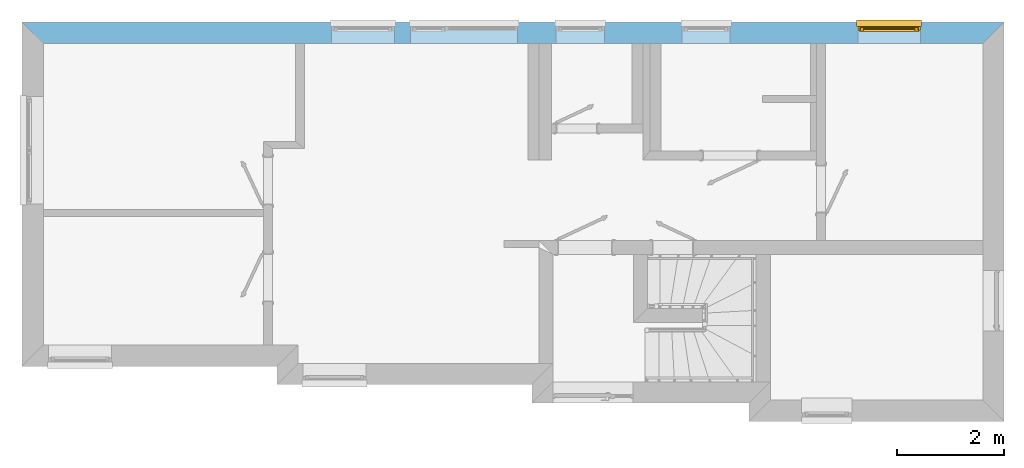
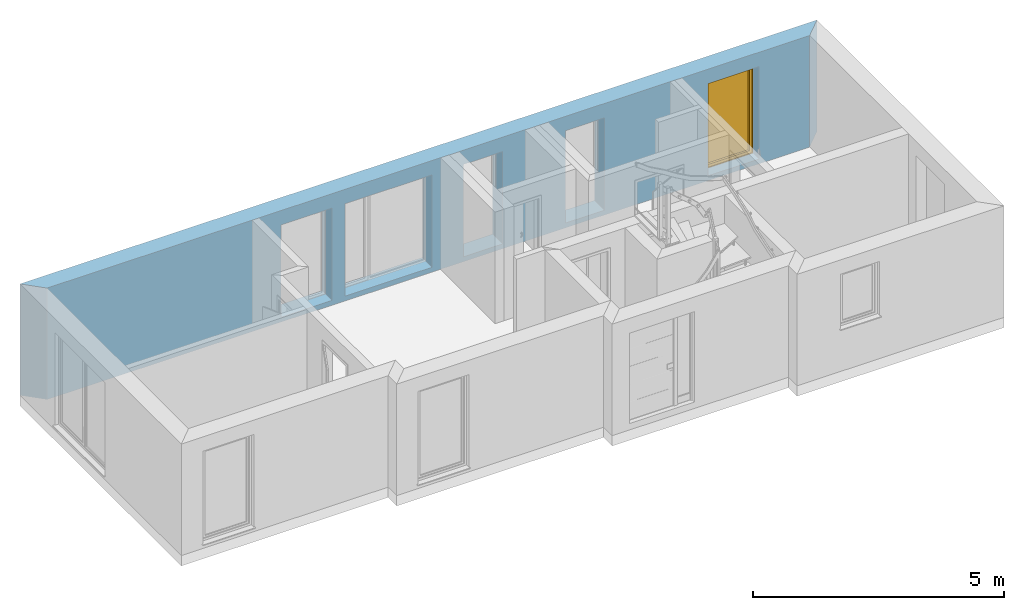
# One storey, part 10 of 13: 1 window, 5 openings, plus 1 element that does not belong to this part.
"""IFC2X3 building model written with IfcOpenShell, lengths in millimetres."""

from ifc_helpers import new_model, si_unit, frame, origin_with_axes, place, context, project, spatial, faceted_brep, material, layer, layer_set, layer_usage, type_object, element, fill, save


model = new_model("IFC2X3")

# Units and contexts
model_context = context("Model", 3, world=origin_with_axes())
ifc_project = project(units=[si_unit("LENGTHUNIT", "METRE", prefix="MILLI")], contexts=[model_context])

# Site, building, storey
site_placement = place(None, origin_with_axes())
site = spatial("IfcSite", under=ifc_project, at=site_placement, Name="Site", CompositionType="ELEMENT")
building_placement = place(site_placement, origin_with_axes())
building = spatial("IfcBuilding", under=site, at=building_placement, Name="?", CompositionType="ELEMENT")
storey_placement = place(building_placement, origin_with_axes())
storey = spatial("IfcBuildingStorey", under=building, at=storey_placement, Name="Erdgeschoß", CompositionType="ELEMENT", Elevation=0.0)

# Wall, openings, window
ifc_material = material(Name="Material_AW")
ifc_layer = layer(ifc_material, 395.0, ventilated=False)
ifc_layer_set = layer_set([ifc_layer], Name="MaterialLayerSet_AW")
ifc_layer_usage = layer_usage(ifc_layer_set, "AXIS2", "NEGATIVE", 197.5)
wall_placement = place(storey_placement, frame((197.5, -197.5, 0.0), z_axis=(0.0, 0.0, 1.0), x_axis=(1.0, 0.0, 0.0)))
wall = element("IfcWall", 1, at=wall_placement, inside=storey, material=ifc_layer_usage, Name="AW-01", context=model_context, shape_type="Brep", body=[
    faceted_brep([(17707.5008600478, -197.5, 0.0), (17707.5008600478, -197.5, 2707.0), (197.5, -197.5, 2707.0), (197.5, -197.5, 0.0), (18102.5001275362, 197.499999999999, 0.0), (18102.5001275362, 197.499999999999, 150.0), (18102.5001275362, 197.499999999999, 2707.0), (17707.5008600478, -197.500000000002, 2707.0), (17707.5008600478, -197.500000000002, 0.0), (-197.500233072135, 197.5, 0.0), (-197.500233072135, 197.5, 150.0), (5569.5, 197.5, 150.0), (5569.5, 197.5, 116.0), (6739.5, 197.5, 116.0), (6739.5, 197.5, 150.0), (7039.5, 197.5, 150.0), (7039.5, 197.5, 116.0), (9039.5, 197.5, 116.0), (9039.5, 197.5, 150.0), (9755.5, 197.5, 150.0), (9755.5, 197.5, 116.0), (10655.5, 197.5, 116.0), (10655.5, 197.5, 150.0), (12099.5, 197.5, 150.0), (12099.5, 197.5, 116.0), (12999.5, 197.5, 116.0), (12999.5, 197.5, 150.0), (15377.5, 197.5, 150.0), (15377.5, 197.5, 116.0), (16547.5, 197.5, 116.0), (16547.5, 197.5, 150.0), (18102.5001275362, 197.5, 150.0), (18102.5001275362, 197.5, 0.0), (-197.500233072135, 197.5, 150.0), (-197.500233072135, 197.5, 2707.0), (18102.5001275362, 197.5, 2707.0), (18102.5001275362, 197.5, 150.0), (16547.5, 197.5, 150.0), (16547.5, 197.5, 116.0), (15377.5, 197.5, 116.0), (15377.5, 197.5, 150.0), (12999.5, 197.5, 150.0), (12999.5, 197.5, 116.0), (12099.5, 197.5, 116.0), (12099.5, 197.5, 150.0), (10655.5, 197.5, 150.0), (10655.5, 197.5, 116.0), (9755.5, 197.5, 116.0), (9755.5, 197.5, 150.0), (9039.5, 197.5, 150.0), (9039.5, 197.5, 116.0), (7039.5, 197.5, 116.0), (7039.5, 197.5, 150.0), (6739.5, 197.5, 150.0), (6739.5, 197.5, 116.0), (5569.5, 197.5, 116.0), (5569.5, 197.5, 150.0), (197.5, -197.5, 0.0), (197.5, -197.5, 2707.0), (-197.500233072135, 197.5, 2707.0), (-197.500233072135, 197.5, 150.0), (-197.500233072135, 197.5, 0.0), (197.5, -197.5, 0.0), (-197.500233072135, 197.5, 0.0), (18102.5001275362, 197.5, 0.0), (17707.5008600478, -197.5, 0.0), (-197.500233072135, 197.5, 2707.0), (197.5, -197.5, 2707.0), (17707.5008600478, -197.5, 2707.0), (18102.5001275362, 197.5, 2707.0)], [[[0, 1, 2, 3]], [[4, 5, 6, 7, 8]], [[9, 10, 11, 12, 13, 14, 15, 16, 17, 18, 19, 20, 21, 22, 23, 24, 25, 26, 27, 28, 29, 30, 31, 32]], [[33, 34, 35, 36, 37, 38, 39, 40, 41, 42, 43, 44, 45, 46, 47, 48, 49, 50, 51, 52, 53, 54, 55, 56]], [[57, 58, 59, 60, 61]], [[62, 63, 64, 65]], [[66, 67, 68, 69]]]),
])
opening_1_placement = place(wall_placement, frame((5569.5, 0.0, 116.0), z_axis=(0.0, 0.0, 1.0), x_axis=(1.0, 0.0, 0.0)))
element("IfcOpeningElement", 2, at=opening_1_placement, cuts=wall, Name="AW-01|FE01", context=model_context, shape_type="Brep", body=[
    faceted_brep([(0.0, 207.5, 0.0), (0.0, 207.5, 2244.0), (1170.0, 207.5, 2244.0), (1170.0, 207.5, 0.0), (0.0, -207.5, 0.0), (0.0, -207.5, 2244.0), (0.0, 207.5, 2244.0), (0.0, 207.5, 0.0), (1170.0, -207.5, 0.0), (0.0, -207.5, 0.0), (0.0, 207.5, 0.0), (1170.0, 207.5, 0.0), (1170.0, -207.5, 2244.0), (1170.0, -207.5, 0.0), (1170.0, 207.5, 0.0), (1170.0, 207.5, 2244.0), (0.0, -207.5, 2244.0), (1170.0, -207.5, 2244.0), (1170.0, 207.5, 2244.0), (0.0, 207.5, 2244.0), (0.0, -207.5, 0.0), (1170.0, -207.5, 0.0), (1170.0, -207.5, 2244.0), (0.0, -207.5, 2244.0)], [[[0, 1, 2, 3]], [[4, 5, 6, 7]], [[8, 9, 10, 11]], [[12, 13, 14, 15]], [[16, 17, 18, 19]], [[20, 21, 22, 23]]]),
])
opening_2_placement = place(wall_placement, frame((7039.5, 0.0, 116.0), z_axis=(0.0, 0.0, 1.0), x_axis=(1.0, 0.0, 0.0)))
element("IfcOpeningElement", 3, at=opening_2_placement, cuts=wall, Name="AW-01|FE02", context=model_context, shape_type="Brep", body=[
    faceted_brep([(0.0, 207.5, 0.0), (0.0, 207.5, 2244.0), (2000.0, 207.5, 2244.0), (2000.0, 207.5, 0.0), (0.0, -207.5, 0.0), (0.0, -207.5, 2244.0), (0.0, 207.5, 2244.0), (0.0, 207.5, 0.0), (2000.0, -207.5, 0.0), (0.0, -207.5, 0.0), (0.0, 207.5, 0.0), (2000.0, 207.5, 0.0), (2000.0, -207.5, 2244.0), (2000.0, -207.5, 0.0), (2000.0, 207.5, 0.0), (2000.0, 207.5, 2244.0), (0.0, -207.5, 2244.0), (2000.0, -207.5, 2244.0), (2000.0, 207.5, 2244.0), (0.0, 207.5, 2244.0), (0.0, -207.5, 0.0), (2000.0, -207.5, 0.0), (2000.0, -207.5, 2244.0), (0.0, -207.5, 2244.0)], [[[0, 1, 2, 3]], [[4, 5, 6, 7]], [[8, 9, 10, 11]], [[12, 13, 14, 15]], [[16, 17, 18, 19]], [[20, 21, 22, 23]]]),
])
opening_3_placement = place(wall_placement, frame((9755.5, 0.0, 116.0), z_axis=(0.0, 0.0, 1.0), x_axis=(1.0, 0.0, 0.0)))
element("IfcOpeningElement", 4, at=opening_3_placement, cuts=wall, Name="AW-01|FE03", context=model_context, shape_type="Brep", body=[
    faceted_brep([(0.0, 207.5, 0.0), (0.0, 207.5, 2244.0), (900.0, 207.5, 2244.0), (900.0, 207.5, 0.0), (0.0, -207.5, 0.0), (0.0, -207.5, 2244.0), (0.0, 207.5, 2244.0), (0.0, 207.5, 0.0), (900.0, -207.5, 0.0), (0.0, -207.5, 0.0), (0.0, 207.5, 0.0), (900.0, 207.5, 0.0), (900.0, -207.5, 2244.0), (900.0, -207.5, 0.0), (900.0, 207.5, 0.0), (900.0, 207.5, 2244.0), (0.0, -207.5, 2244.0), (900.0, -207.5, 2244.0), (900.0, 207.5, 2244.0), (0.0, 207.5, 2244.0), (0.0, -207.5, 0.0), (900.0, -207.5, 0.0), (900.0, -207.5, 2244.0), (0.0, -207.5, 2244.0)], [[[0, 1, 2, 3]], [[4, 5, 6, 7]], [[8, 9, 10, 11]], [[12, 13, 14, 15]], [[16, 17, 18, 19]], [[20, 21, 22, 23]]]),
])
opening_4_placement = place(wall_placement, frame((12099.5, 0.0, 116.0), z_axis=(0.0, 0.0, 1.0), x_axis=(1.0, 0.0, 0.0)))
element("IfcOpeningElement", 5, at=opening_4_placement, cuts=wall, Name="AW-01|FE04", context=model_context, shape_type="Brep", body=[
    faceted_brep([(0.0, 207.5, 0.0), (0.0, 207.5, 2244.0), (900.0, 207.5, 2244.0), (900.0, 207.5, 0.0), (0.0, -207.5, 0.0), (0.0, -207.5, 2244.0), (0.0, 207.5, 2244.0), (0.0, 207.5, 0.0), (900.0, -207.5, 0.0), (0.0, -207.5, 0.0), (0.0, 207.5, 0.0), (900.0, 207.5, 0.0), (900.0, -207.5, 2244.0), (900.0, -207.5, 0.0), (900.0, 207.5, 0.0), (900.0, 207.5, 2244.0), (0.0, -207.5, 2244.0), (900.0, -207.5, 2244.0), (900.0, 207.5, 2244.0), (0.0, 207.5, 2244.0), (0.0, -207.5, 0.0), (900.0, -207.5, 0.0), (900.0, -207.5, 2244.0), (0.0, -207.5, 2244.0)], [[[0, 1, 2, 3]], [[4, 5, 6, 7]], [[8, 9, 10, 11]], [[12, 13, 14, 15]], [[16, 17, 18, 19]], [[20, 21, 22, 23]]]),
])
opening_5_placement = place(wall_placement, frame((15377.5, 0.0, 116.0), z_axis=(0.0, 0.0, 1.0), x_axis=(1.0, 0.0, 0.0)))
opening_5 = element("IfcOpeningElement", 6, at=opening_5_placement, cuts=wall, Name="AW-01|FE05", context=model_context, shape_type="Brep", body=[
    faceted_brep([(0.0, 207.5, 0.0), (0.0, 207.5, 2244.0), (1170.0, 207.5, 2244.0), (1170.0, 207.5, 0.0), (0.0, -207.5, 0.0), (0.0, -207.5, 2244.0), (0.0, 207.5, 2244.0), (0.0, 207.5, 0.0), (1170.0, -207.5, 0.0), (0.0, -207.5, 0.0), (0.0, 207.5, 0.0), (1170.0, 207.5, 0.0), (1170.0, -207.5, 2244.0), (1170.0, -207.5, 0.0), (1170.0, 207.5, 0.0), (1170.0, 207.5, 2244.0), (0.0, -207.5, 2244.0), (1170.0, -207.5, 2244.0), (1170.0, 207.5, 2244.0), (0.0, 207.5, 2244.0), (0.0, -207.5, 0.0), (1170.0, -207.5, 0.0), (1170.0, -207.5, 2244.0), (0.0, -207.5, 2244.0)], [[[0, 1, 2, 3]], [[4, 5, 6, 7]], [[8, 9, 10, 11]], [[12, 13, 14, 15]], [[16, 17, 18, 19]], [[20, 21, 22, 23]]]),
])
window_style = type_object("IfcWindowStyle", Name="FE05", ConstructionType="NOTDEFINED", OperationType="SINGLE_PANEL", ParameterTakesPrecedence=True, Sizeable=False)
window_placement = place(opening_5_placement, frame((1170.0, 77.5, 0.0), z_axis=(0.0, 0.0, 1.0), x_axis=(-1.0, 0.0, 0.0)))
window = element("IfcWindow", 7, at=window_placement, inside=storey, type_object=window_style, Name="FE05", OverallHeight=2244.0, OverallWidth=1170.0, context=model_context, shape_type="Brep", body=[
    faceted_brep([(0.0, -36.0, 0.0), (1170.0, -36.0, 0.0), (1155.0, -36.0, 15.0), (15.0, -36.0, 15.0), (15.0, 36.0, 15.0), (1155.0, 36.0, 15.0), (1170.0, 36.0, 0.0), (0.0, 36.0, 0.0), (0.0, 36.0, 0.0), (1170.0, 36.0, 0.0), (1170.0, -36.0, 0.0), (0.0, -36.0, 0.0), (1170.0, -36.0, 0.0), (1170.0, -36.0, 2244.0), (1155.0, -36.0, 2229.0), (1155.0, -36.0, 15.0), (1155.0, 36.0, 15.0011596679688), (1155.0, 36.0, 2229.00122070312), (1170.0, 36.0, 2244.00122070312), (1170.0, 36.0, 0.00115966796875), (1170.0, 36.0, 0.0), (1170.0, 36.0, 2244.0), (1170.0, -36.0, 2244.0), (1170.0, -36.0, 0.0), (1170.0, -36.0, 2244.0), (0.0, -36.0, 2244.0), (15.0, -36.0, 2229.0), (1155.0, -36.0, 2229.0), (1155.0, 36.0, 2229.0), (15.0, 36.0, 2229.0), (0.0, 36.0, 2244.0), (1170.0, 36.0, 2244.0), (1170.0, 36.0, 2244.0), (0.0, 36.0, 2244.0), (0.0, -36.0, 2244.0), (1170.0, -36.0, 2244.0), (0.0, -36.0, 2244.0), (0.0, -36.0, 0.0), (15.0, -36.0, 15.0), (15.0, -36.0, 2229.0), (15.0, 36.0, 2229.00024414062), (15.0, 36.0, 15.000244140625), (0.0, 36.0, 0.000244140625), (0.0, 36.0, 2244.00024414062), (0.0, 36.0, 2244.0), (0.0, 36.0, 0.0), (0.0, -36.0, 0.0), (0.0, -36.0, 2244.0), (1155.0, 36.0, 15.0), (15.0, 36.0, 15.0), (43.0, 36.0, 43.0), (1127.0, 36.0, 43.0), (1127.0, 36.0, 43.0), (43.0, 36.0, 43.0), (43.0, -21.0, 43.0), (1127.0, -21.0, 43.0), (1127.0, -21.0, 43.0), (43.0, -21.0, 43.0), (60.0, -21.0, 60.0), (1110.0, -21.0, 60.0), (1110.0009765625, -21.0, 60.0), (60.0, -21.0, 60.0), (60.0, -25.0, 60.0), (1110.0009765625, -25.0, 60.0), (1110.0009765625, -25.0, 60.0), (60.0, -25.0, 60.0), (53.0, -36.0014646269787, 52.9991454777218), (1117.0009765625, -36.0014646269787, 52.9991454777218), (1117.0009765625, -36.0, 53.0), (53.0, -36.0, 53.0), (15.0, -36.0, 15.0), (1155.0009765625, -36.0, 15.0), (1155.0, 36.0, 2229.0), (1155.0, 36.0, 15.0), (1127.0, 36.0, 43.0), (1127.0, 36.0, 2201.0), (1127.0, 36.0, 2201.00024414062), (1127.0, 36.0, 43.000244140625), (1127.0, -21.0, 43.000244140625), (1127.0, -21.0, 2201.00024414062), (1127.0, -21.0, 2201.00024414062), (1127.0, -21.0, 43.000244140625), (1110.0, -21.0, 60.000244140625), (1110.0, -21.0, 2184.00024414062), (1110.0, -21.0, 2184.00073242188), (1110.0, -21.0, 60.000732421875), (1110.0, -25.0, 60.000732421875), (1110.0, -25.0, 2184.00073242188), (1110.0, -25.0, 2184.00073242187), (1110.0, -25.0, 60.0007324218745), (1117.0009767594, -36.0014647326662, 53.0007324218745), (1117.0009767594, -36.0014647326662, 2191.00073242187), (1117.0, -36.0, 2191.0), (1117.0, -36.0, 53.0), (1155.0, -36.0, 15.0), (1155.0, -36.0, 2229.0), (15.0, 36.0, 2229.0), (1155.0, 36.0, 2229.0), (1127.0, 36.0, 2201.0), (43.0, 36.0, 2201.0), (43.001953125, 36.0, 2201.0), (1127.001953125, 36.0, 2201.0), (1127.001953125, -21.0, 2201.0), (43.001953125, -21.0, 2201.0), (43.001953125, -21.0, 2201.0), (1127.001953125, -21.0, 2201.0), (1110.001953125, -21.0, 2184.0), (60.001953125, -21.0, 2184.0), (60.0, -21.0, 2184.0), (1110.0, -21.0, 2184.0), (1110.0, -25.0, 2184.0), (60.0, -25.0, 2184.0), (60.0, -25.0, 2184.0), (1110.0, -25.0, 2184.0), (1117.0, -36.0014647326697, 2191.00097675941), (53.0, -36.0014647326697, 2191.00097675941), (53.0, -36.0, 2191.0), (1117.0, -36.0, 2191.0), (1155.0, -36.0, 2229.0), (15.0, -36.0, 2229.0), (15.0, 36.0, 15.0), (15.0, 36.0, 2229.0), (43.0, 36.0, 2201.0), (43.0, 36.0, 43.0), (43.0, 36.0, 42.9997711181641), (43.0, 36.0, 2200.99975585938), (43.0, -21.0, 2200.99975585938), (43.0, -21.0, 42.9997711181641), (43.0, -21.0, 42.9997711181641), (43.0, -21.0, 2200.99975585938), (60.0, -21.0, 2183.99975585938), (60.0, -21.0, 59.9997711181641), (60.0, -21.0, 60.0007171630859), (60.0, -21.0, 2184.00073242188), (60.0, -25.0, 2184.00073242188), (60.0, -25.0, 60.0007171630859), (60.0, -25.0, 60.0007171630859), (60.0, -25.0, 2184.00073242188), (52.9980467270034, -36.0007321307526, 2191.00073242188), (52.9980467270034, -36.0007321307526, 53.0007171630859), (53.0, -36.0, 53.0000915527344), (53.0, -36.0, 2191.0), (15.0, -36.0, 2229.0), (15.0, -36.0, 15.0000915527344), (1137.0, 52.0, 33.0), (33.0, 52.0, 33.0), (96.0, 52.0, 96.0), (1074.0, 52.0, 96.0), (1074.0, 52.0, 96.0), (96.0000000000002, 52.0, 96.0), (110.0, 19.9985349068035, 110.000610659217), (1060.0, 19.9985349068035, 110.000610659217), (1060.0, 20.0, 110.0), (110.0, 20.0, 110.0), (103.0, 20.0, 103.0), (1067.0, 20.0, 103.0), (1067.0009765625, 20.0, 103.0), (103.0, 20.0, 103.0), (103.0, -4.0, 103.0), (1067.0009765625, -4.0, 103.0), (1067.0009765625, -4.0, 103.0), (103.0, -4.0, 103.0), (110.0, -4.0, 110.0), (1060.0009765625, -4.0, 110.0), (1060.0, -4.0, 110.0), (110.0, -4.0, 110.0), (102.0, -21.0014648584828, 101.999267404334), (1068.0, -21.0014648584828, 101.999267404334), (1068.0009765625, -21.0, 102.0), (102.0, -21.0, 102.0), (51.0, -21.0, 51.0), (1119.0009765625, -21.0, 51.0), (1119.0009765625, -21.0, 51.0), (51.0, -21.0, 51.0), (51.0, 36.0, 51.0), (1119.0009765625, 36.0, 51.0), (1119.0009765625, 36.0, 51.0), (51.0, 36.0, 51.0), (33.0, 36.0, 33.0), (1137.0009765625, 36.0, 33.0), (1137.0, 36.0, 33.0), (33.0, 36.0, 33.0), (33.0, 52.0, 33.0), (1137.0, 52.0, 33.0), (1137.0, 52.0, 2211.00024414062), (1137.0, 52.0, 33.000244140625), (1074.0, 52.0, 96.000244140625), (1074.0, 52.0, 2148.00024414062), (1074.0, 52.0, 2148.00024414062), (1074.0, 52.0, 96.000244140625), (1059.99902353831, 19.9987802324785, 110.000244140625), (1059.99902353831, 19.9987802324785, 2134.00024414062), (1060.0, 20.0, 2134.00024414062), (1060.0, 20.0, 110.000244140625), (1067.0, 20.0, 103.000244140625), (1067.0, 20.0, 2141.00024414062), (1067.0, 20.0, 2140.99951171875), (1067.0, 20.0, 102.99951171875), (1067.0, -4.0, 102.99951171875), (1067.0, -4.0, 2140.99951171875), (1067.0, -4.0, 2140.99951171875), (1067.0, -4.0, 102.99951171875), (1060.0, -4.0, 109.99951171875), (1060.0, -4.0, 2133.99951171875), (1060.0, -4.0, 2134.00024414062), (1060.0, -4.0, 110.000244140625), (1068.0009767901, -21.0012201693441, 102.000244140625), (1068.0009767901, -21.0012201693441, 2142.00024414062), (1068.0, -21.0, 2141.99951171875), (1068.0, -21.0, 101.99951171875), (1119.0, -21.0, 50.99951171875), (1119.0, -21.0, 2192.99951171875), (1119.0, -21.0, 2192.99951171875), (1119.0, -21.0, 50.99951171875), (1119.0, 36.0, 50.99951171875), (1119.0, 36.0, 2192.99951171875), (1119.0, 36.0, 2192.99951171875), (1119.0, 36.0, 50.99951171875), (1137.0, 36.0, 32.99951171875), (1137.0, 36.0, 2210.99951171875), (1137.0, 36.0, 2211.00024414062), (1137.0, 36.0, 33.000244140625), (1137.0, 52.0, 33.000244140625), (1137.0, 52.0, 2211.00024414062), (33.001953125, 52.0, 2211.0), (1137.001953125, 52.0, 2211.0), (1074.001953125, 52.0, 2148.0), (96.001953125, 52.0, 2148.0), (96.001953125, 52.0, 2148.0), (1074.001953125, 52.0, 2148.0), (1060.001953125, 19.9985360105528, 2133.99951201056), (110.001953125, 19.9985360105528, 2133.99951201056), (110.001953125, 20.0, 2134.0), (1060.001953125, 20.0, 2134.0), (1067.001953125, 20.0, 2141.0), (103.001953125, 20.0, 2141.0), (103.0, 20.0, 2141.0), (1067.0, 20.0, 2141.0), (1067.0, -4.0, 2141.0), (103.0, -4.0, 2141.0), (103.0, -4.0, 2141.0), (1067.0, -4.0, 2141.0), (1060.0, -4.0, 2134.0), (110.0, -4.0, 2134.0), (110.001953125, -4.0, 2134.0), (1060.001953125, -4.0, 2134.0), (1068.001953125, -21.001464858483, 2142.00073259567), (102.001953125, -21.001464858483, 2142.00073259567), (102.0, -21.0, 2142.0), (1068.0, -21.0, 2142.0), (1119.0, -21.0, 2193.0), (51.0, -21.0, 2193.0), (51.0, -21.0, 2193.0), (1119.0, -21.0, 2193.0), (1119.0, 36.0, 2193.0), (51.0, 36.0, 2193.0), (51.0, 36.0, 2193.0), (1119.0, 36.0, 2193.0), (1137.0, 36.0, 2211.0), (33.0, 36.0, 2211.0), (33.001953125, 36.0, 2211.0), (1137.001953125, 36.0, 2211.0), (1137.001953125, 52.0, 2211.0), (33.001953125, 52.0, 2211.0), (33.0, 52.0, 32.9996795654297), (33.0, 52.0, 2210.99975585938), (96.0, 52.0, 2147.99975585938), (96.0, 52.0, 95.9996795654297), (96.0, 52.0, 95.9998474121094), (96.0, 52.0, 2147.99975585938), (110.000000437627, 19.9985341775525, 2133.99975585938), (110.000000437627, 19.9985341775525, 109.999847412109), (110.0, 20.0, 109.999740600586), (110.0, 20.0, 2133.99975585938), (103.0, 20.0, 2140.99975585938), (103.0, 20.0, 102.999740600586), (103.0, 20.0, 103.00048828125), (103.0, 20.0, 2141.00048828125), (103.0, -4.0, 2141.00048828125), (103.0, -4.0, 103.00048828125), (103.0, -4.0, 103.00048828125), (103.0, -4.0, 2141.00048828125), (110.0, -4.0, 2134.00048828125), (110.0, -4.0, 110.00048828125), (110.0, -4.0, 109.999740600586), (110.0, -4.0, 2133.99975585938), (101.998047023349, -21.0012212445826, 2141.99975585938), (101.998047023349, -21.0012212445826, 101.999740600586), (102.0, -21.0, 102.000595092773), (102.0, -21.0, 2142.00048828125), (51.0, -21.0, 2193.00048828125), (51.0, -21.0, 51.0005950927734), (51.0, -21.0, 51.0005187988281), (51.0, -21.0, 2193.00048828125), (51.0, 36.0, 2193.00048828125), (51.0, 36.0, 51.0005187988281), (51.0, 36.0, 51.0005187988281), (51.0, 36.0, 2193.00048828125), (33.0, 36.0, 2211.00048828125), (33.0, 36.0, 33.0005187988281), (33.0, 36.0, 32.9996795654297), (33.0, 36.0, 2210.99975585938), (33.0, 52.0, 2210.99975585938), (33.0, 52.0, 32.9996795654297), (110.0, 20.0, 110.0), (110.0, 20.0, 2134.0), (1060.0, 20.0, 2134.0), (1060.0, 20.0, 110.0), (110.0, -4.0, 110.0), (1060.0, -4.0, 110.0), (1060.0, -4.0, 2134.0), (110.0, -4.0, 2134.0), (-20.0, -36.0, 0.5), (-20.0, -160.0, 0.5), (1190.0, -160.0, 0.5), (1190.0, -36.0, 0.5), (-20.0, -36.0, -19.5), (-20.0, -36.0, 0.5), (1190.0, -36.0, 0.5), (1190.0, -36.0, -19.5), (-20.0, -160.0, -19.5), (-20.0, -36.0, -19.5), (1190.0, -36.0, -19.5), (1190.0, -160.0, -19.5), (-20.0, -160.0, 0.5), (-20.0, -160.0, -19.5), (1190.0, -160.0, -19.5), (1190.0, -160.0, 0.5), (-20.0, -160.0, -19.5), (-20.0, -160.0, 0.5), (-20.0, -36.0, 0.5), (-20.0, -36.0, -19.5), (1190.0, -160.0, 0.5), (1190.0, -160.0, -19.5), (1190.0, -36.0, -19.5), (1190.0, -36.0, 0.5)], [[[0, 1, 2, 3]], [[4, 5, 6, 7]], [[8, 9, 10, 11]], [[12, 13, 14, 15]], [[16, 17, 18, 19]], [[20, 21, 22, 23]], [[24, 25, 26, 27]], [[28, 29, 30, 31]], [[32, 33, 34, 35]], [[36, 37, 38, 39]], [[40, 41, 42, 43]], [[44, 45, 46, 47]], [[48, 49, 50, 51]], [[52, 53, 54, 55]], [[56, 57, 58, 59]], [[60, 61, 62, 63]], [[64, 65, 66, 67]], [[68, 69, 70, 71]], [[72, 73, 74, 75]], [[76, 77, 78, 79]], [[80, 81, 82, 83]], [[84, 85, 86, 87]], [[88, 89, 90, 91]], [[92, 93, 94, 95]], [[96, 97, 98, 99]], [[100, 101, 102, 103]], [[104, 105, 106, 107]], [[108, 109, 110, 111]], [[112, 113, 114, 115]], [[116, 117, 118, 119]], [[120, 121, 122, 123]], [[124, 125, 126, 127]], [[128, 129, 130, 131]], [[132, 133, 134, 135]], [[136, 137, 138, 139]], [[140, 141, 142, 143]], [[144, 145, 146, 147]], [[148, 149, 150, 151]], [[152, 153, 154, 155]], [[156, 157, 158, 159]], [[160, 161, 162, 163]], [[164, 165, 166, 167]], [[168, 169, 170, 171]], [[172, 173, 174, 175]], [[176, 177, 178, 179]], [[180, 181, 182, 183]], [[184, 185, 186, 187]], [[188, 189, 190, 191]], [[192, 193, 194, 195]], [[196, 197, 198, 199]], [[200, 201, 202, 203]], [[204, 205, 206, 207]], [[208, 209, 210, 211]], [[212, 213, 214, 215]], [[216, 217, 218, 219]], [[220, 221, 222, 223]], [[224, 225, 226, 227]], [[228, 229, 230, 231]], [[232, 233, 234, 235]], [[236, 237, 238, 239]], [[240, 241, 242, 243]], [[244, 245, 246, 247]], [[248, 249, 250, 251]], [[252, 253, 254, 255]], [[256, 257, 258, 259]], [[260, 261, 262, 263]], [[264, 265, 266, 267]], [[268, 269, 270, 271]], [[272, 273, 274, 275]], [[276, 277, 278, 279]], [[280, 281, 282, 283]], [[284, 285, 286, 287]], [[288, 289, 290, 291]], [[292, 293, 294, 295]], [[296, 297, 298, 299]], [[300, 301, 302, 303]], [[304, 305, 306, 307]], [[308, 309, 310, 311]], [[312, 313, 314, 315]], [[316, 317, 318, 319]], [[320, 321, 322, 323]], [[324, 325, 326, 327]], [[328, 329, 330, 331]], [[332, 333, 334, 335]]]),
])
fill(opening_5, window)

save(model, "model.ifc")
